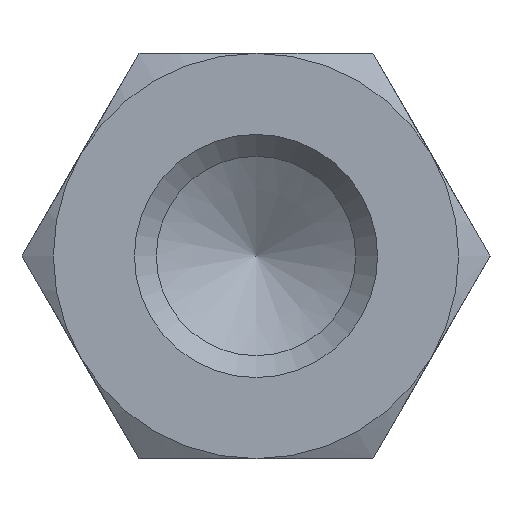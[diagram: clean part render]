
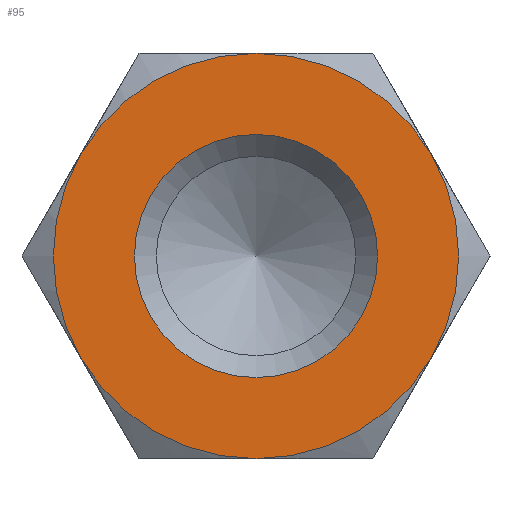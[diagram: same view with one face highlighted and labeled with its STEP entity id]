
A CAD part, left-side view. The second image highlights one B-rep face of the part: STEP entity #95.
In plain terms, the highlighted planar face has unit normal (-1, 0, 0).
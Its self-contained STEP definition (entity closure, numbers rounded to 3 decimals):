
#95 = ADVANCED_FACE( '', ( #147, #148 ), #149, .F. );
#147 = FACE_OUTER_BOUND( '', #206, .T. );
#148 = FACE_BOUND( '', #207, .T. );
#149 = PLANE( '', #208 );
#206 = EDGE_LOOP( '', ( #356, #357, #358, #359, #360, #361 ) );
#207 = EDGE_LOOP( '', ( #362 ) );
#208 = AXIS2_PLACEMENT_3D( '', #363, #364, #365 );
#356 = ORIENTED_EDGE( '', *, *, #440, .F. );
#357 = ORIENTED_EDGE( '', *, *, #425, .F. );
#358 = ORIENTED_EDGE( '', *, *, #441, .F. );
#359 = ORIENTED_EDGE( '', *, *, #437, .F. );
#360 = ORIENTED_EDGE( '', *, *, #442, .F. );
#361 = ORIENTED_EDGE( '', *, *, #443, .F. );
#362 = ORIENTED_EDGE( '', *, *, #439, .T. );
#363 = CARTESIAN_POINT( '', ( -80., 0., 0. ) );
#364 = DIRECTION( '', ( 1., 0., 0. ) );
#365 = DIRECTION( '', ( 0., 0., -1. ) );
#425 = EDGE_CURVE( '', #495, #493, #497, .T. );
#437 = EDGE_CURVE( '', #447, #506, #513, .T. );
#439 = EDGE_CURVE( '', #516, #516, #517, .T. );
#440 = EDGE_CURVE( '', #493, #486, #518, .T. );
#441 = EDGE_CURVE( '', #506, #495, #519, .T. );
#442 = EDGE_CURVE( '', #481, #447, #520, .T. );
#443 = EDGE_CURVE( '', #486, #481, #521, .T. );
#447 = VERTEX_POINT( '', #525 );
#481 = VERTEX_POINT( '', #601 );
#486 = VERTEX_POINT( '', #617 );
#493 = VERTEX_POINT( '', #642 );
#495 = VERTEX_POINT( '', #647 );
#497 = CIRCLE( '', #654, 5. );
#506 = VERTEX_POINT( '', #680 );
#513 = CIRCLE( '', #717, 5. );
#516 = VERTEX_POINT( '', #720 );
#517 = CIRCLE( '', #721, 3. );
#518 = CIRCLE( '', #722, 5. );
#519 = CIRCLE( '', #723, 5. );
#520 = CIRCLE( '', #724, 5. );
#521 = CIRCLE( '', #725, 5. );
#525 = CARTESIAN_POINT( '', ( -80., -4.33, 2.5 ) );
#601 = CARTESIAN_POINT( '', ( -80., 0., 5. ) );
#617 = CARTESIAN_POINT( '', ( -80., 4.33, 2.5 ) );
#642 = CARTESIAN_POINT( '', ( -80., 4.33, -2.5 ) );
#647 = CARTESIAN_POINT( '', ( -80., 0., -5. ) );
#654 = AXIS2_PLACEMENT_3D( '', #760, #761, #762 );
#680 = CARTESIAN_POINT( '', ( -80., -4.33, -2.5 ) );
#717 = AXIS2_PLACEMENT_3D( '', #765, #766, #767 );
#720 = CARTESIAN_POINT( '', ( -80., 0., -3. ) );
#721 = AXIS2_PLACEMENT_3D( '', #771, #772, #773 );
#722 = AXIS2_PLACEMENT_3D( '', #774, #775, #776 );
#723 = AXIS2_PLACEMENT_3D( '', #777, #778, #779 );
#724 = AXIS2_PLACEMENT_3D( '', #780, #781, #782 );
#725 = AXIS2_PLACEMENT_3D( '', #783, #784, #785 );
#760 = CARTESIAN_POINT( '', ( -80., 0., 0. ) );
#761 = DIRECTION( '', ( 1., 0., 0. ) );
#762 = DIRECTION( '', ( 0., 0., -1. ) );
#765 = CARTESIAN_POINT( '', ( -80., 0., 0. ) );
#766 = DIRECTION( '', ( 1., 0., 0. ) );
#767 = DIRECTION( '', ( 0., 0., -1. ) );
#771 = CARTESIAN_POINT( '', ( -80., 0., 0. ) );
#772 = DIRECTION( '', ( 1., 0., 0. ) );
#773 = DIRECTION( '', ( 0., 0., -1. ) );
#774 = CARTESIAN_POINT( '', ( -80., 0., 0. ) );
#775 = DIRECTION( '', ( 1., 0., 0. ) );
#776 = DIRECTION( '', ( 0., 0., -1. ) );
#777 = CARTESIAN_POINT( '', ( -80., 0., 0. ) );
#778 = DIRECTION( '', ( 1., 0., 0. ) );
#779 = DIRECTION( '', ( 0., 0., -1. ) );
#780 = CARTESIAN_POINT( '', ( -80., 0., 0. ) );
#781 = DIRECTION( '', ( 1., 0., 0. ) );
#782 = DIRECTION( '', ( 0., 0., -1. ) );
#783 = CARTESIAN_POINT( '', ( -80., 0., 0. ) );
#784 = DIRECTION( '', ( 1., 0., 0. ) );
#785 = DIRECTION( '', ( 0., 0., -1. ) );
